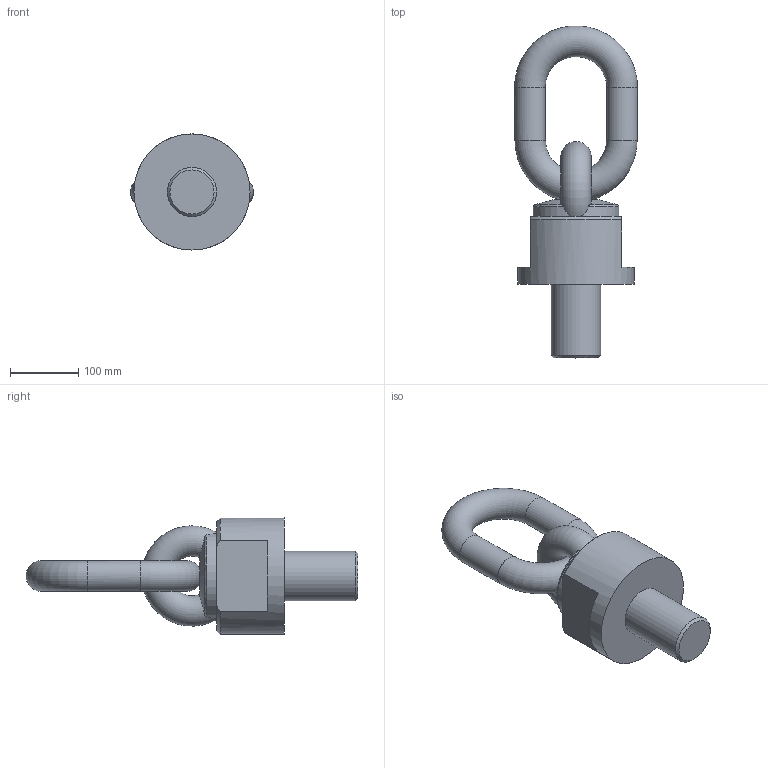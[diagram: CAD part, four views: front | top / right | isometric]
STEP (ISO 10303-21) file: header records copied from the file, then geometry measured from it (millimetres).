
FILE_DESCRIPTION( ( 'STEP AP203' ), '1' );
FILE_NAME( 'p:/temp/worker_21/temp/app_56_0201906261458217600761810e898ce_000000_00_00_000000/format_3/C800X31572108.stp', '2019-06-26T12:58:24', ( '' ), ( '' ), ' ', 'PARTsolutions', ' ' );
FILE_SCHEMA( ( 'CONFIG_CONTROL_DESIGN' ) );
Length unit declared in the file: millimetre
Products named in the file (1): _C800X31572108
Bounding box: 180 x 485.81 x 170 mm (x, y, z)
Volume: 3977988.1 mm3; surface area: 230271.9 mm2
Topology: 1 solids, 1 shells, 28 faces, 70 edges, 44 vertices
Faces by surface type: plane 12, cylinder 6, torus 5, cone 5
Full cylindrical faces by diameter (mm): 45 x2, 72 x1, 170 x1
Entity records: 1289 total; most frequent: CARTESIAN_POINT 639, DIRECTION 122, ORIENTED_EDGE 116, EDGE_CURVE 58, AXIS2_PLACEMENT_3D 57, EDGE_LOOP 42, VERTEX_POINT 41, FACE_OUTER_BOUND 35
